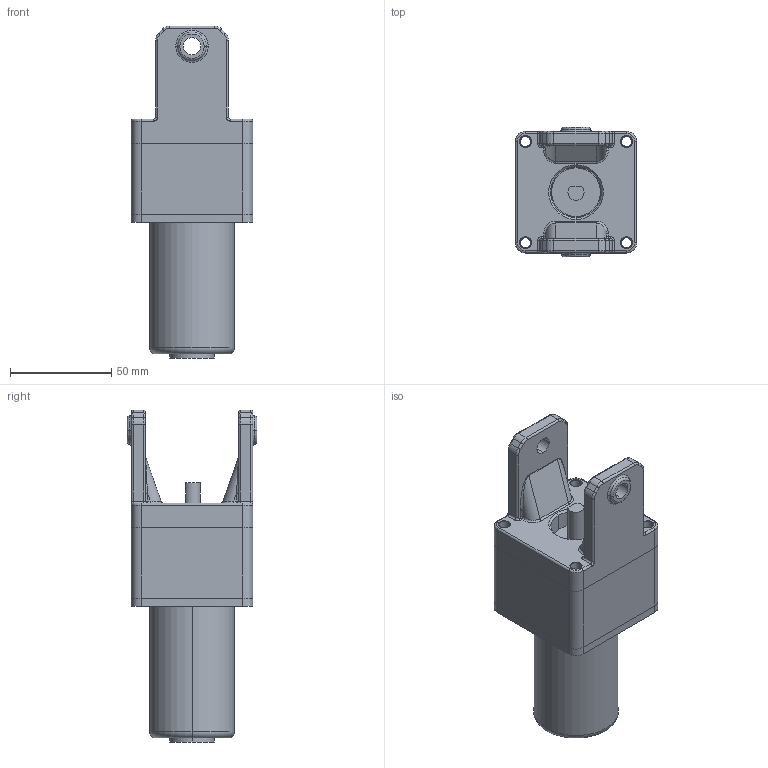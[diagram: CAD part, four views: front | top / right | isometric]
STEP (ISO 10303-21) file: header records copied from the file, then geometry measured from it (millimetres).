
FILE_DESCRIPTION((''),'2;1');
FILE_NAME('DRIVNING_ASM','2025-06-09T00:07:06',('Richard'),(''),'CREO PARAMETRIC BY PTC INC, 2023072','CREO PARAMETRIC BY PTC INC, 2023072','');
FILE_SCHEMA(('CONFIG_CONTROL_DESIGN'));
Length unit declared in the file: millimetre
Products named in the file (4): GEARBOX; MOTOR; MOTORPLATTA; DRIVNING_ASM
Assembly tree (3 placements, depth 2):
  DRIVNING_ASM
    GEARBOX
    MOTOR
    MOTORPLATTA
Bounding box: 60 x 64 x 164 mm (x, y, z)
Volume: 287331.4 mm3; surface area: 53355.9 mm2
Topology: 3 solids, 3 shells, 216 faces, 549 edges, 374 vertices
Faces by surface type: cylinder 111, plane 45, torus 38, cone 10, bspline 8, sphere 4
Entity records: 8287 total; most frequent: CARTESIAN_POINT 2753, DIRECTION 1269, ORIENTED_EDGE 1044, EDGE_CURVE 522, AXIS2_PLACEMENT_3D 512, VERTEX_POINT 320, CIRCLE 288, EDGE_LOOP 254
